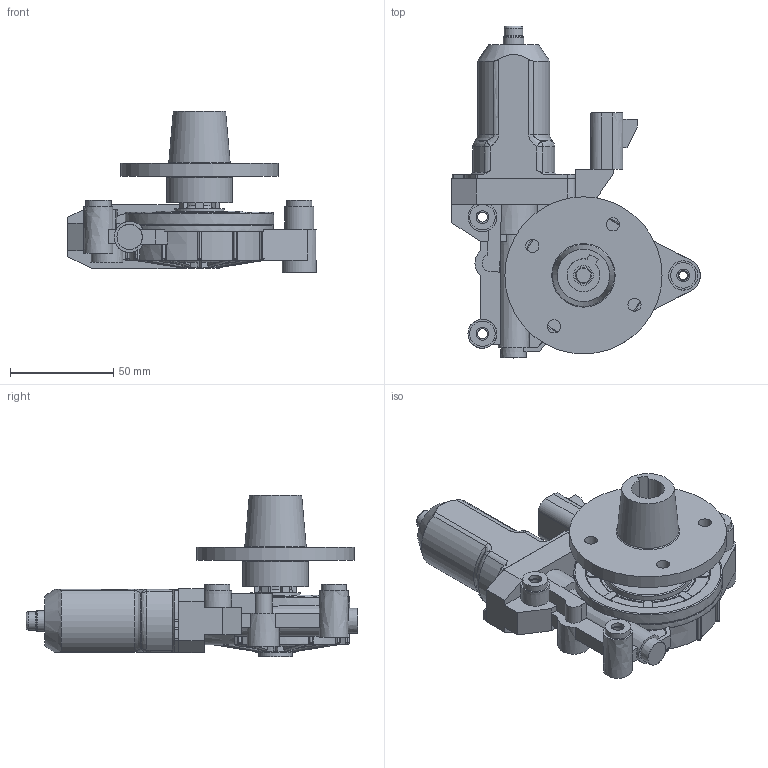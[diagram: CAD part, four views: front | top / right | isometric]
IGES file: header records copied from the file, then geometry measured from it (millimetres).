
Global section: file name: No Iges File Name specified; native system: AutoDesk Inventor R6.0; preprocessor: AutoDesk Inventor Iges Exporter R6.0; author: No Author specified; organization: No Organization specified; date: 20060129.205555; units: inch
Bounding box: 120.53 x 161 x 78.56 mm (x, y, z)
Surface area: 62134.8 mm2 (no closed solid volume)
Topology: 0 solids, 0 shells, 698 faces, 3626 edges, 3553 vertices
Faces by surface type: plane 318, revolution 297, bspline 83
